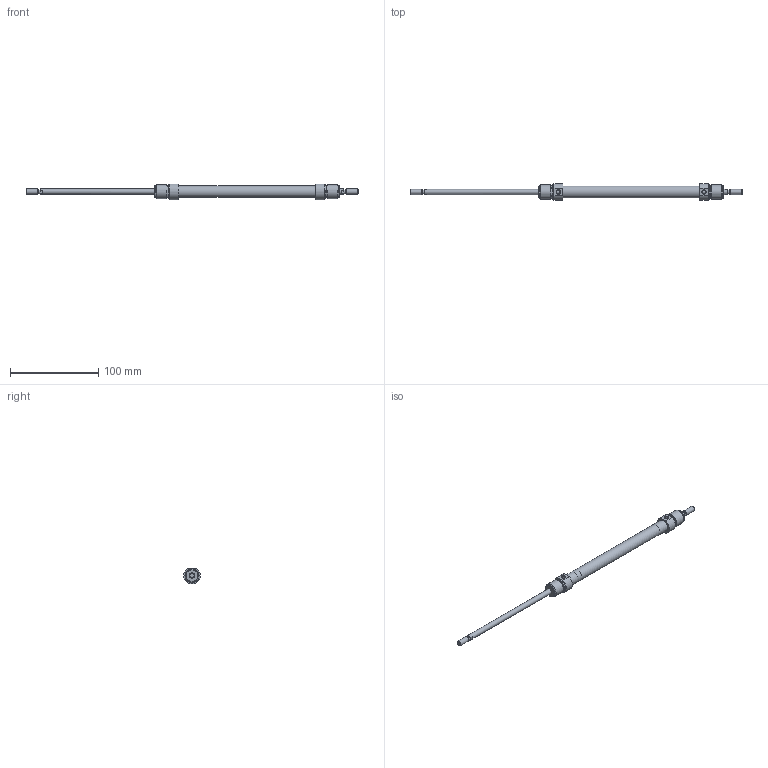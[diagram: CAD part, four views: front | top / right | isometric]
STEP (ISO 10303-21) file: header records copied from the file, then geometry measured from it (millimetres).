
FILE_DESCRIPTION( ( 'STEP AP203' ), '1' );
FILE_NAME( '//expscmdclustefs.cadenas.external/client_exchange/iodir/jobs/output/wkb68359173_no0/STEP/M101-012-0125--__0__2_03.stp', ' ', ( ' ' ), ( ' ' ), 'PSStep 15.0.47', 'PARTsolutions', ' ' );
FILE_SCHEMA( ( 'CONFIG_CONTROL_DESIGN' ) );
Length unit declared in the file: millimetre
Products named in the file (3): M101-012-0125-- [0]; HI_M101-012-0125---[0]-z; HI_M101-012-0125---[0]-k
Assembly tree (2 placements, depth 2):
  M101-012-0125-- [0]
    HI_M101-012-0125---[0]-z
    HI_M101-012-0125---[0]-k
Bounding box: 376 x 18.73 x 17.86 mm (x, y, z)
Volume: 27432.6 mm3; surface area: 24227.4 mm2
Topology: 2 solids, 2 shells, 65 faces, 129 edges, 80 vertices
Faces by surface type: plane 26, cylinder 23, cone 14, torus 2
Full cylindrical faces by diameter (mm): 4.134 x2, 4.773 x2, 6 x6, 12 x2, 13.3 x1, 14.16 x4, 16 x4
Entity records: 1670 total; most frequent: CARTESIAN_POINT 324, DIRECTION 280, ORIENTED_EDGE 184, AXIS2_PLACEMENT_3D 128, EDGE_LOOP 116, EDGE_CURVE 92, FACE_OUTER_BOUND 88, VERTEX_POINT 76
